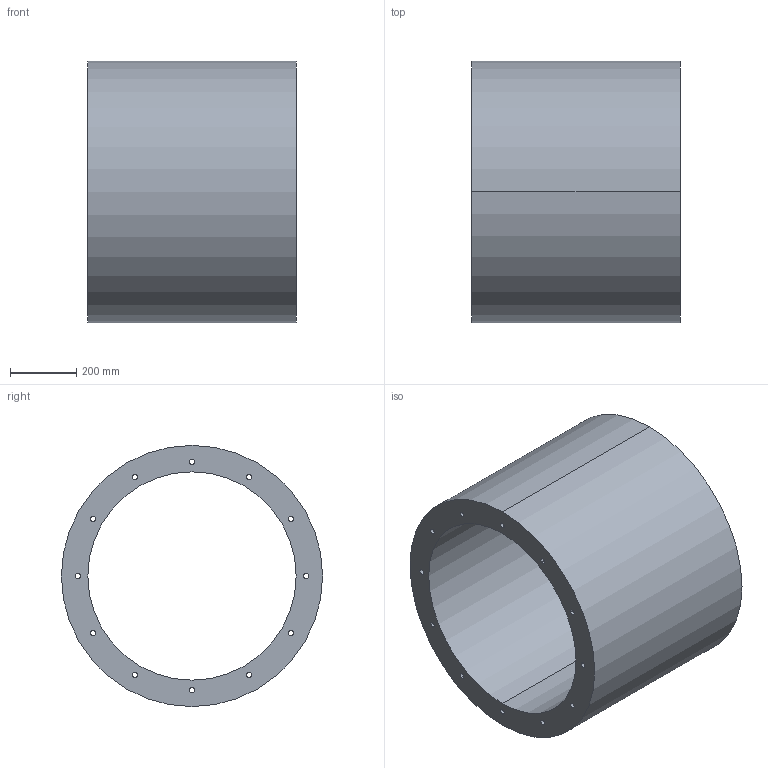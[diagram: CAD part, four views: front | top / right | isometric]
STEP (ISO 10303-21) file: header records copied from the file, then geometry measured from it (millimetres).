
FILE_DESCRIPTION(('STEP AP214'),'1');
FILE_NAME('accessory_5211811200.stp','2017-10-09T11:36:54',('TraceParts'),('TraceParts S.A.'),'Spatial InterOp 3D',' ',' ');
FILE_SCHEMA(('automotive_design'));
Length unit declared in the file: millimetre
Products named in the file (1): accessory_5211811200
Bounding box: 630 x 790 x 790 mm (x, y, z)
Volume: 110898723.3 mm3; surface area: 3542535.3 mm2
Topology: 1 solids, 1 shells, 30 faces, 84 edges, 56 vertices
Faces by surface type: cylinder 28, plane 2
Entity records: 1312 total; most frequent: DIRECTION 202, CARTESIAN_POINT 171, ORIENTED_EDGE 168, AXIS2_PLACEMENT_3D 87, EDGE_CURVE 84, EDGE_LOOP 56, VERTEX_POINT 56, CIRCLE 56
